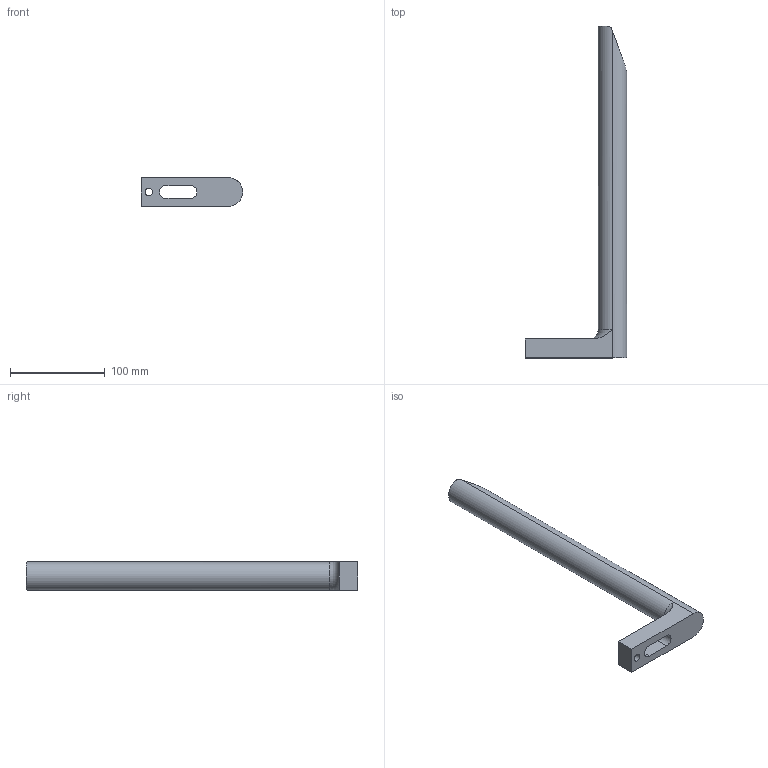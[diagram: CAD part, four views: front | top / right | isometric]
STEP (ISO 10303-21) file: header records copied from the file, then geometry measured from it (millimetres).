
FILE_DESCRIPTION(('CATIA V5 STEP Exchange'),'2;1');
FILE_NAME('C:\Users\Raffaele\Desktop\3D X SITO CF\702-705\GSB_OILLESS_M30101350\STEP-2.03\702-9.stp','2019-07-04T06:07:46+00:00',('none'),('none'),'CATIA Version 5 Release 20 GA (IN-10)','CATIA V5 STEP AP203','none');
FILE_SCHEMA(('CONFIG_CONTROL_DESIGN'));
Length unit declared in the file: millimetre
Products named in the file (1): 702-9
Bounding box: 107 x 350 x 30 mm (x, y, z)
Volume: 277094.9 mm3; surface area: 43012 mm2
Topology: 1 solids, 1 shells, 18 faces, 52 edges, 36 vertices
Faces by surface type: plane 9, cylinder 8, torus 1
Entity records: 745 total; most frequent: CARTESIAN_POINT 236, ORIENTED_EDGE 104, DIRECTION 77, EDGE_CURVE 52, VERTEX_POINT 36, AXIS2_PLACEMENT_3D 35, VECTOR 25, LINE 25
